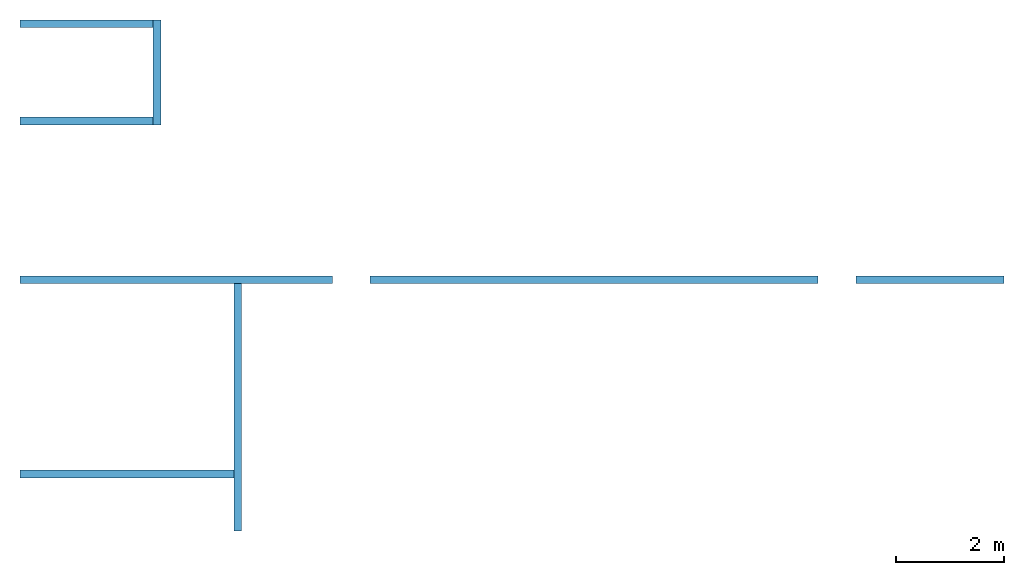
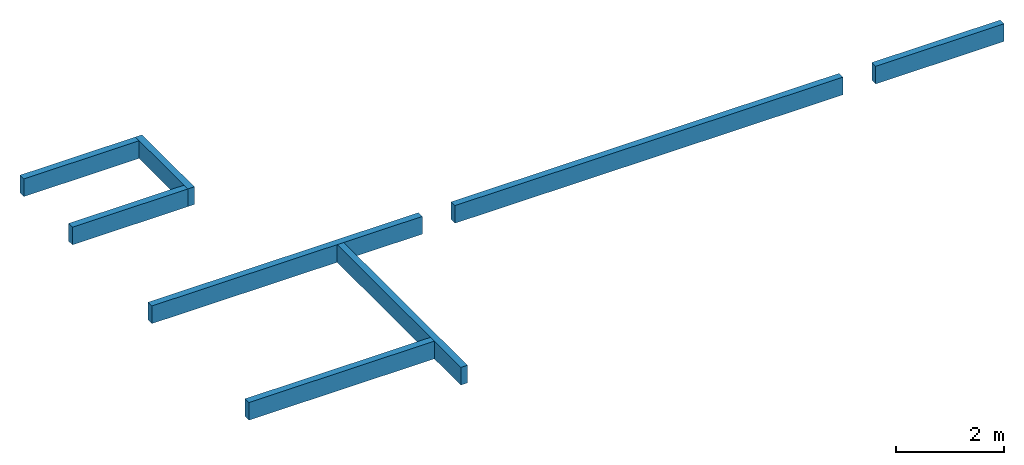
# One storey: 8 walls.
"""IFC2X3 building model written with IfcOpenShell, lengths in millimetres."""

from ifc_helpers import new_model, entity, si_unit, converted_unit, derived_unit, direction, frame, origin_with_axes, place, context, subcontext, project, spatial, faceted_brep, material, layer, layer_set, type_object, element, save


model = new_model("IFC2X3")

# Units and contexts
model_context = context("Model", 3, precision=0.01, world=frame((0.0, 4.29681676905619e-09, 0.0)), true_north=direction((4.01073788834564e-13, 1.0)))
plan_context = context("Plan", 3, precision=0.01, world=frame((0.0, 4.29681676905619e-09, 0.0)), true_north=direction((4.01073788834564e-13, 1.0)))
body_context = subcontext(model_context, "Body", "Model", "MODEL_VIEW")
ifc_project = project(units=[converted_unit("PLANEANGLEUNIT", "DEGREE", entity("IfcPositiveLengthMeasure", 0.0174532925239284), si_unit("PLANEANGLEUNIT", "RADIAN"), dimensions=[0, 0, 0, 0, 0, 0, 0]), si_unit("AREAUNIT", "SQUARE_METRE"), si_unit("LENGTHUNIT", "METRE", prefix="MILLI"), si_unit("MASSUNIT", "GRAM", prefix="KILO"), si_unit("POWERUNIT", "WATT"), si_unit("PRESSUREUNIT", "PASCAL"), si_unit("FORCEUNIT", "NEWTON", prefix="KILO"), si_unit("ELECTRICCURRENTUNIT", "AMPERE"), si_unit("THERMODYNAMICTEMPERATUREUNIT", "DEGREE_CELSIUS"), si_unit("TIMEUNIT", "SECOND"), si_unit("VOLUMEUNIT", "CUBIC_METRE"), derived_unit("LINEARVELOCITYUNIT", [(si_unit("LENGTHUNIT", "METRE"), 1), (si_unit("TIMEUNIT", "SECOND"), -1)]), derived_unit("VOLUMETRICFLOWRATEUNIT", [(si_unit("VOLUMEUNIT", "CUBIC_METRE"), 1), (si_unit("TIMEUNIT", "SECOND"), -1)]), derived_unit("THERMALTRANSMITTANCEUNIT", [(si_unit("POWERUNIT", "WATT"), 1), (si_unit("THERMODYNAMICTEMPERATUREUNIT", "KELVIN"), -1), (si_unit("AREAUNIT", "SQUARE_METRE"), -1)])], contexts=[model_context, plan_context])

# Site, building, storey
site_placement = place(None, origin_with_axes())
site = spatial("IfcSite", under=ifc_project, at=site_placement, Name="ENGM", CompositionType="ELEMENT")
building_placement = place(site_placement, origin_with_axes())
building = spatial("IfcBuilding", under=site, at=building_placement, Name="TS", CompositionType="ELEMENT")
storey_placement = place(building_placement, frame((0.0, 0.0, 202330.0), z_axis=(0.0, 0.0, 1.0), x_axis=(1.0, 0.0, 0.0)))
storey = spatial("IfcBuildingStorey", under=building, at=storey_placement, Name="Nivå C + 2,03 m", CompositionType="ELEMENT", Elevation=202330.0)

# Walls
ifc_material = material(Name="Betong - Multiblokk")
ifc_layer_1 = layer(ifc_material, 142.0)
ifc_layer_set_1 = layer_set([ifc_layer_1], Name="Basic Wall:A241 - MK-142 (Multiblokk 142)")
wall_type_1 = type_object("IfcWallType", Name="Basic Wall:A241 - MK-142 (Multiblokk 142)", PredefinedType="STANDARD", material=ifc_layer_set_1)
wall_1_placement = place(storey_placement, frame((516330.2, 410239.999999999, 0.0), z_axis=(0.0, 0.0, 1.0), x_axis=(-1.0, 0.0, 0.0)))
element("IfcWall", 1, at=wall_1_placement, inside=storey, type_object=wall_type_1, Name="Basic Wall:A241 - MK-142 (Multiblokk 142)", ObjectType="Basic Wall:A241 - MK-142 (Multiblokk 142)", context=body_context, shape_type="Brep", body=[
    faceted_brep([(0.0, 70.9999999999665, 670.0), (2467.69999999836, 70.9999999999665, 670.0), (2467.69999999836, 70.9999999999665, 1070.0), (0.0, 70.9999999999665, 1070.0), (0.0, -71.0000000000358, 670.0), (0.0, -71.0000000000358, 1070.0), (2467.69999999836, -71.0000000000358, 1070.0), (2467.69999999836, -71.0000000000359, 670.0)], [[[0, 1, 2, 3]], [[4, 0, 3, 5]], [[6, 7, 4, 5]], [[2, 6, 5, 3]], [[7, 6, 2, 1]], [[1, 0, 4, 7]]], orient=[[False], [False], [False], [False], [False], [False]]),
])
wall_2_placement = place(storey_placement, frame((516401.2, 408368.999999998, 0.0), z_axis=(0.0, 0.0, 1.0), x_axis=(0.0, 1.0, 0.0)))
element("IfcWall", 2, at=wall_2_placement, inside=storey, type_object=wall_type_1, Name="Basic Wall:A241 - MK-142 (Multiblokk 142)", ObjectType="Basic Wall:A241 - MK-142 (Multiblokk 142)", context=body_context, shape_type="Brep", body=[
    faceted_brep([(1942.00000000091, 70.9999999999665, 670.0), (1942.00000000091, -71.0000000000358, 670.0), (1942.00000000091, -71.0000000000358, 1070.0), (1942.00000000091, 70.9999999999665, 1070.0), (1.13686837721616e-13, 70.9999999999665, 670.0), (1.13686837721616e-13, 70.9999999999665, 1070.0), (1.13686837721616e-13, -71.0000000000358, 670.0), (1.13686837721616e-13, -71.0000000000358, 1070.0)], [[[0, 1, 2, 3]], [[4, 0, 3, 5]], [[6, 4, 5, 7]], [[1, 6, 7, 2]], [[3, 2, 7, 5]], [[4, 6, 1, 0]]], orient=[[False], [False], [False], [False], [False], [False]]),
])
wall_3_placement = place(storey_placement, frame((513189.3, 408439.999999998, 0.0), z_axis=(0.0, 0.0, 1.0), x_axis=(1.0, 0.0, 0.0)))
element("IfcWall", 3, at=wall_3_placement, inside=storey, type_object=wall_type_1, Name="Basic Wall:A241 - MK-142 (Multiblokk 142)", ObjectType="Basic Wall:A241 - MK-142 (Multiblokk 142)", context=body_context, shape_type="Brep", body=[
    faceted_brep([(3140.90000000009, 70.9999999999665, 670.0), (3140.90000000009, -71.0000000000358, 670.0), (3140.90000000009, -71.0000000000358, 1070.0), (3140.90000000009, 70.9999999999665, 1070.0), (673.200000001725, 70.9999999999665, 1070.0), (673.200000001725, 70.9999999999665, 670.0), (673.200000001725, -71.0000000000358, 670.0), (673.200000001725, -71.0000000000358, 1070.0)], [[[0, 1, 2, 3]], [[4, 5, 0, 3]], [[1, 6, 7, 2]], [[7, 4, 3, 2]], [[5, 4, 7, 6]], [[6, 1, 0, 5]]], orient=[[False], [False], [False], [False], [False], [False]]),
])
wall_4_placement = place(storey_placement, frame((519650.000000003, 405499.999999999, 0.0), z_axis=(0.0, 0.0, 1.0), x_axis=(-1.0, 0.0, 0.0)))
element("IfcWall", 4, at=wall_4_placement, inside=storey, type_object=wall_type_1, Name="Basic Wall:A241 - MK-142 (Multiblokk 142)", ObjectType="Basic Wall:A241 - MK-142 (Multiblokk 142)", context=body_context, shape_type="Brep", body=[
    faceted_brep([(0.0, 70.9999999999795, 670.0), (5787.50000000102, 70.9999999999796, 670.0), (5787.50000000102, 70.9999999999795, 1070.0), (0.0, 70.9999999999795, 1070.0), (0.0, -71.0000000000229, 670.0), (0.0, -71.0000000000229, 1070.0), (5787.50000000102, -71.0000000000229, 1070.0), (5787.50000000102, -71.0000000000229, 670.0)], [[[0, 1, 2, 3]], [[4, 0, 3, 5]], [[6, 7, 4, 5]], [[2, 6, 5, 3]], [[7, 6, 2, 1]], [[1, 0, 4, 7]]], orient=[[False], [False], [False], [False], [False], [False]]),
])
wall_5_placement = place(storey_placement, frame((520350.000000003, 405500.0, 0.0), z_axis=(0.0, 0.0, 1.0), x_axis=(1.0, 0.0, 0.0)))
element("IfcWall", 5, at=wall_5_placement, inside=storey, type_object=wall_type_1, Name="Basic Wall:A241 - MK-142 (Multiblokk 142)", ObjectType="Basic Wall:A241 - MK-142 (Multiblokk 142)", context=body_context, shape_type="Brep", body=[
    faceted_brep([(8300.00000000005, 70.9999999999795, 670.0), (8300.00000000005, -71.0000000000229, 670.0), (8300.00000000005, -71.0000000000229, 1070.0), (8300.00000000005, 70.9999999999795, 1070.0), (0.0, 70.9999999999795, 670.0), (0.0, 70.9999999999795, 1070.0), (0.0, -71.0000000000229, 670.0), (0.0, -71.0000000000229, 1070.0)], [[[0, 1, 2, 3]], [[4, 0, 3, 5]], [[6, 4, 5, 7]], [[1, 6, 7, 2]], [[3, 2, 7, 5]], [[4, 6, 1, 0]]], orient=[[False], [False], [False], [False], [False], [False]]),
])
wall_6_placement = place(storey_placement, frame((529350.0125, 405499.999999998, 0.0), z_axis=(0.0, 0.0, 1.0), x_axis=(1.0, 0.0, 0.0)))
element("IfcWall", 6, at=wall_6_placement, inside=storey, type_object=wall_type_1, Name="Basic Wall:A241 - MK-142 (Multiblokk 142)", ObjectType="Basic Wall:A241 - MK-142 (Multiblokk 142)", context=body_context, shape_type="Brep", body=[
    faceted_brep([(0.0, 70.9999999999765, 670.0), (2744.98750000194, 70.9999999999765, 670.0), (2744.98750000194, 70.9999999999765, 1070.0), (0.0, 70.9999999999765, 1070.0), (0.0, -71.0000000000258, 670.0), (0.0, -71.0000000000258, 1070.0), (2744.98750000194, -71.0000000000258, 1070.0), (2744.98750000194, -71.0000000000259, 670.0)], [[[0, 1, 2, 3]], [[4, 0, 3, 5]], [[6, 7, 4, 5]], [[2, 6, 5, 3]], [[7, 6, 2, 1]], [[1, 0, 4, 7]]], orient=[[False], [False], [False], [False], [False], [False]]),
])
ifc_layer_2 = layer(ifc_material, 142.0)
ifc_layer_set_2 = layer_set([ifc_layer_2], Name="Basic Wall:A241 - MH-142 (Multiblokk 142)")
wall_type_2 = type_object("IfcWallType", Name="Basic Wall:A241 - MH-142 (Multiblokk 142)", PredefinedType="STANDARD", material=ifc_layer_set_2)
wall_7_placement = place(storey_placement, frame((517900.0, 398370.999999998, 0.0), z_axis=(0.0, 0.0, 1.0), x_axis=(0.0, 1.0, 0.0)))
element("IfcWall", 7, at=wall_7_placement, inside=storey, type_object=wall_type_2, Name="Basic Wall:A241 - MH-142 (Multiblokk 142)", ObjectType="Basic Wall:A241 - MH-142 (Multiblokk 142)", context=body_context, shape_type="Brep", body=[
    faceted_brep([(7058.00000000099, 70.999999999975, 670.0), (7058.00000000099, -71.0000000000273, 670.0), (7058.00000000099, -71.0000000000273, 1070.0), (7058.00000000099, 70.999999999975, 1070.0), (2474.67665895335, 70.999999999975, 1070.0), (2474.67665895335, 70.9999999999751, 670.0), (2474.67665895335, -71.0000000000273, 670.0), (2474.67665895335, -71.0000000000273, 1070.0)], [[[0, 1, 2, 3]], [[4, 5, 0, 3]], [[1, 6, 7, 2]], [[7, 4, 3, 2]], [[5, 4, 7, 6]], [[6, 1, 0, 5]]], orient=[[False], [False], [False], [False], [False], [False]]),
])
wall_8_placement = place(storey_placement, frame((511348.7625, 401899.999999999, 0.0), z_axis=(0.0, 0.0, 1.0), x_axis=(1.0, 0.0, 0.0)))
element("IfcWall", 8, at=wall_8_placement, inside=storey, type_object=wall_type_2, Name="Basic Wall:A241 - MH-142 (Multiblokk 142)", ObjectType="Basic Wall:A241 - MH-142 (Multiblokk 142)", context=body_context, shape_type="Brep", body=[
    faceted_brep([(6480.23749999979, -71.0000000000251, 670.0), (2513.73750000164, -71.0000000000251, 670.0), (2513.73750000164, -71.0000000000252, 1070.0), (6480.23749999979, -71.0000000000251, 1070.0), (6480.23749999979, 70.9999999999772, 670.0), (6480.23749999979, 70.9999999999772, 1070.0), (2513.73750000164, 70.9999999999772, 1070.0), (2513.73750000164, 70.9999999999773, 670.0)], [[[0, 1, 2, 3]], [[4, 0, 3, 5]], [[6, 7, 4, 5]], [[2, 6, 5, 3]], [[7, 6, 2, 1]], [[1, 0, 4, 7]]], orient=[[False], [False], [False], [False], [False], [False]]),
])

save(model, "model.ifc")
